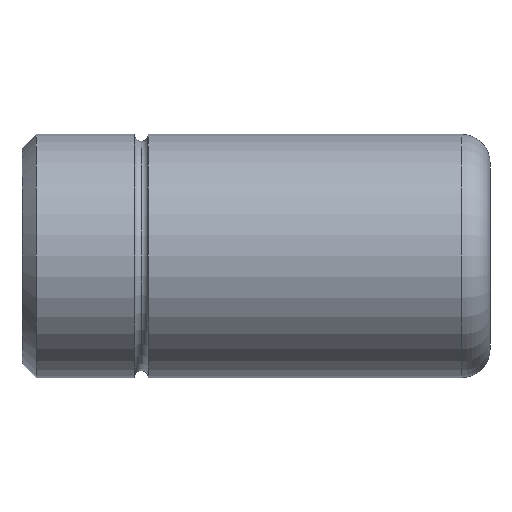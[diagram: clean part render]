
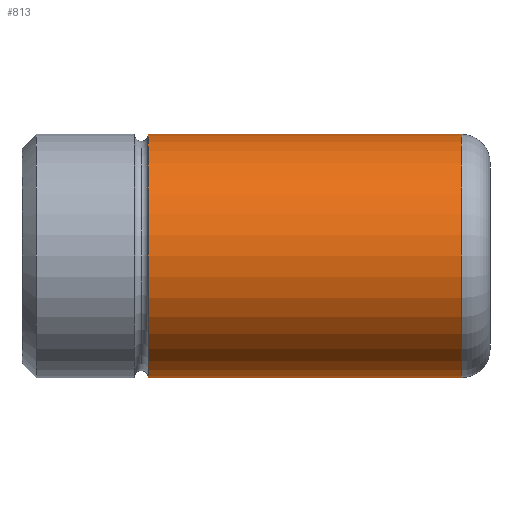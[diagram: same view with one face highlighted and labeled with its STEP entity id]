
A CAD part, front view. The second image highlights one B-rep face of the part: STEP entity #813.
In plain terms, the highlighted cylindrical face has radius 13 mm (diameter 26 mm), a partial arc.
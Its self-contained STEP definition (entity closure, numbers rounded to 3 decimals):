
#629=CARTESIAN_POINT('Vertex',(13.5,0.,13.)) ;
#636=CARTESIAN_POINT('Vertex',(13.5,0.,-13.)) ;
#662=CARTESIAN_POINT('Axis2P3D Location',(13.5,0.,0.)) ;
#666=CARTESIAN_POINT('Vertex',(13.5,-13.,0.)) ;
#669=CARTESIAN_POINT('Axis2P3D Location',(13.5,0.,0.)) ;
#753=CARTESIAN_POINT('Line Origine',(50.,0.,13.)) ;
#757=CARTESIAN_POINT('Vertex',(47.,0.,13.)) ;
#771=CARTESIAN_POINT('Vertex',(47.,0.,-13.)) ;
#774=CARTESIAN_POINT('Line Origine',(50.,0.,-13.)) ;
#788=CARTESIAN_POINT('Axis2P3D Location',(50.,0.,0.)) ;
#793=CARTESIAN_POINT('Axis2P3D Location',(47.,0.,0.)) ;
#797=CARTESIAN_POINT('Vertex',(47.,-13.,0.)) ;
#800=CARTESIAN_POINT('Axis2P3D Location',(47.,0.,0.)) ;
#663=DIRECTION('Axis2P3D Direction',(1.,0.,0.)) ;
#670=DIRECTION('Axis2P3D Direction',(1.,0.,0.)) ;
#754=DIRECTION('Vector Direction',(-1.,0.,0.)) ;
#775=DIRECTION('Vector Direction',(-1.,0.,0.)) ;
#789=DIRECTION('Axis2P3D Direction',(-1.,-0.,-0.)) ;
#790=DIRECTION('Axis2P3D XDirection',(0.,0.,-1.)) ;
#794=DIRECTION('Axis2P3D Direction',(-1.,-0.,-0.)) ;
#801=DIRECTION('Axis2P3D Direction',(-1.,-0.,-0.)) ;
#664=AXIS2_PLACEMENT_3D('Circle Axis2P3D',#662,#663,$) ;
#671=AXIS2_PLACEMENT_3D('Circle Axis2P3D',#669,#670,$) ;
#791=AXIS2_PLACEMENT_3D('Cylinder Axis2P3D',#788,#789,#790) ;
#795=AXIS2_PLACEMENT_3D('Circle Axis2P3D',#793,#794,$) ;
#802=AXIS2_PLACEMENT_3D('Circle Axis2P3D',#800,#801,$) ;
#806=ORIENTED_EDGE('',*,*,#778,.T.) ;
#807=ORIENTED_EDGE('',*,*,#799,.F.) ;
#808=ORIENTED_EDGE('',*,*,#804,.F.) ;
#809=ORIENTED_EDGE('',*,*,#759,.T.) ;
#810=ORIENTED_EDGE('',*,*,#673,.T.) ;
#811=ORIENTED_EDGE('',*,*,#668,.T.) ;
#755=VECTOR('Line Direction',#754,1.) ;
#776=VECTOR('Line Direction',#775,1.) ;
#813=ADVANCED_FACE('348-15 x 50',(#812),#792,.T.) ;
#665=CIRCLE('generated circle',#664,13.) ;
#672=CIRCLE('generated circle',#671,13.) ;
#796=CIRCLE('generated circle',#795,13.) ;
#803=CIRCLE('generated circle',#802,13.) ;
#792=CYLINDRICAL_SURFACE('generated cylinder',#791,13.) ;
#668=EDGE_CURVE('',#667,#637,#665,.T.) ;
#673=EDGE_CURVE('',#630,#667,#672,.T.) ;
#759=EDGE_CURVE('',#758,#630,#756,.T.) ;
#778=EDGE_CURVE('',#637,#772,#777,.F.) ;
#799=EDGE_CURVE('',#798,#772,#796,.F.) ;
#804=EDGE_CURVE('',#758,#798,#803,.F.) ;
#805=EDGE_LOOP('',(#806,#807,#808,#809,#810,#811)) ;
#812=FACE_OUTER_BOUND('',#805,.T.) ;
#756=LINE('Line',#753,#755) ;
#777=LINE('Line',#774,#776) ;
#630=VERTEX_POINT('',#629) ;
#637=VERTEX_POINT('',#636) ;
#667=VERTEX_POINT('',#666) ;
#758=VERTEX_POINT('',#757) ;
#772=VERTEX_POINT('',#771) ;
#798=VERTEX_POINT('',#797) ;
